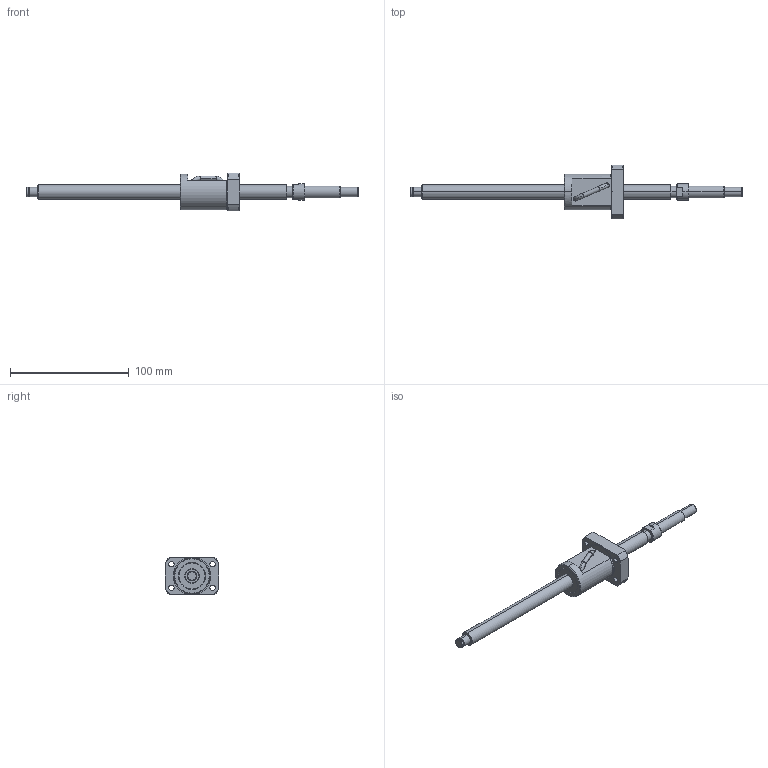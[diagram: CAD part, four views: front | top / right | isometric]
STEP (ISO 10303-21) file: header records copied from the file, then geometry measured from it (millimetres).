
FILE_DESCRIPTION (( 'STEP AP214' ), '1' );
FILE_NAME ('BS1210A-3D.STEP', '2014-03-07T18:42:25', ( '' ), ( '' ), 'SwSTEP 2.0', 'SolidWorks 2012', '' );
FILE_SCHEMA (( 'AUTOMOTIVE_DESIGN' ));
Length unit declared in the file: millimetre
Products named in the file (3): BS1210AŽ²; BS1210Aナット; BS1210A-3D
Assembly tree (2 placements, depth 2):
  BS1210A-3D
    BS1210Aナット
    BS1210AŽ²
Bounding box: 280 x 45 x 32 mm (x, y, z)
Volume: 60769.9 mm3; surface area: 23876.9 mm2
Topology: 5 solids, 5 shells, 165 faces, 412 edges, 266 vertices
Faces by surface type: cylinder 80, plane 45, cone 34, torus 4, bspline 2
Entity records: 6311 total; most frequent: CARTESIAN_POINT 2101, DIRECTION 880, ORIENTED_EDGE 820, EDGE_CURVE 410, AXIS2_PLACEMENT_3D 371, VERTEX_POINT 266, CIRCLE 203, EDGE_LOOP 200
